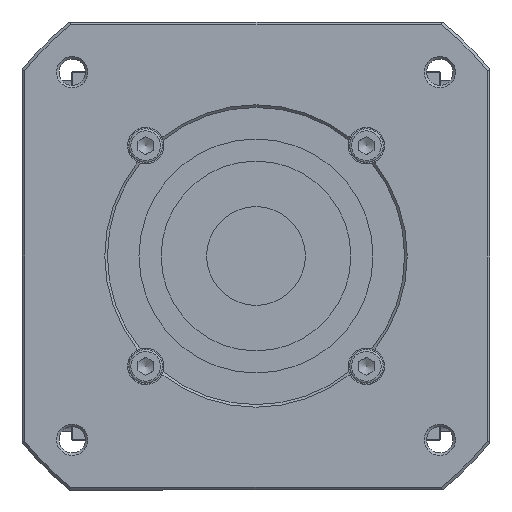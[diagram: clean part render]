
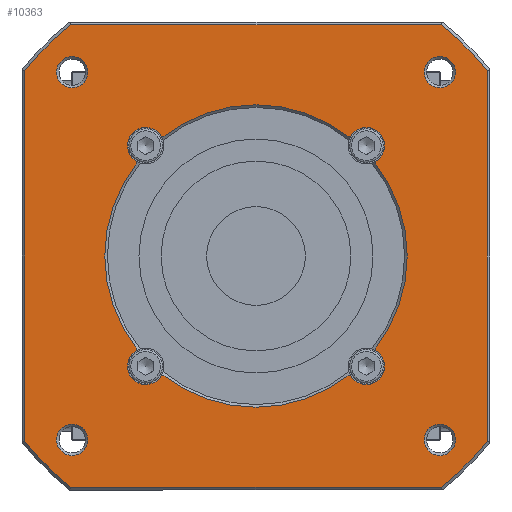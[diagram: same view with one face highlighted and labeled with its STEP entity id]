
A CAD part, front view. The second image highlights one B-rep face of the part: STEP entity #10363.
In plain terms, the highlighted planar face has unit normal (0, -1, 0).
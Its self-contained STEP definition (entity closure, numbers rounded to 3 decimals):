
#9364=CARTESIAN_POINT('',(-89.,-166.0,71.239));
#9365=VERTEX_POINT('',#9364);
#9366=CARTESIAN_POINT('',(-71.239,-166.0,89.));
#9367=VERTEX_POINT('',#9366);
#9368=CARTESIAN_POINT('',(0.,-166.0,0.));
#9369=DIRECTION('',(0.0,1.0,0.0));
#9370=DIRECTION('',(-1.0,0.0,0.0));
#9371=AXIS2_PLACEMENT_3D('',#9368,#9369,#9370);
#9372=CIRCLE('',#9371,114.0);
#9373=EDGE_CURVE('',#9365,#9367,#9372,.T.);
#9414=CARTESIAN_POINT('',(-89.,-166.0,-71.239));
#9415=VERTEX_POINT('',#9414);
#9423=CARTESIAN_POINT('',(-89.,-166.0,-71.239));
#9424=DIRECTION('',(0.0,0.0,1.0));
#9425=VECTOR('',#9424,142.478);
#9426=LINE('',#9423,#9425);
#9427=EDGE_CURVE('',#9415,#9365,#9426,.T.);
#9438=CARTESIAN_POINT('',(-71.239,-166.0,-89.));
#9439=VERTEX_POINT('',#9438);
#9440=CARTESIAN_POINT('',(0.,-166.0,0.));
#9441=DIRECTION('',(0.0,1.0,0.0));
#9442=DIRECTION('',(-1.0,0.0,0.0));
#9443=AXIS2_PLACEMENT_3D('',#9440,#9441,#9442);
#9444=CIRCLE('',#9443,114.0);
#9445=EDGE_CURVE('',#9439,#9415,#9444,.T.);
#9478=CARTESIAN_POINT('',(71.239,-166.0,-89.));
#9479=VERTEX_POINT('',#9478);
#9487=CARTESIAN_POINT('',(71.239,-166.0,-89.0));
#9488=DIRECTION('',(-1.0,0.0,0.0));
#9489=VECTOR('',#9488,142.478);
#9490=LINE('',#9487,#9489);
#9491=EDGE_CURVE('',#9479,#9439,#9490,.T.);
#9502=CARTESIAN_POINT('',(89.,-166.0,-71.239));
#9503=VERTEX_POINT('',#9502);
#9504=CARTESIAN_POINT('',(0.,-166.0,0.));
#9505=DIRECTION('',(0.0,1.0,0.0));
#9506=DIRECTION('',(1.0,0.0,0.0));
#9507=AXIS2_PLACEMENT_3D('',#9504,#9505,#9506);
#9508=CIRCLE('',#9507,114.0);
#9509=EDGE_CURVE('',#9503,#9479,#9508,.T.);
#9529=CARTESIAN_POINT('',(89.,-166.0,71.239));
#9530=VERTEX_POINT('',#9529);
#9538=CARTESIAN_POINT('',(89.,-166.0,71.239));
#9539=DIRECTION('',(0.0,0.0,-1.0));
#9540=VECTOR('',#9539,142.478);
#9541=LINE('',#9538,#9540);
#9542=EDGE_CURVE('',#9530,#9503,#9541,.T.);
#9553=CARTESIAN_POINT('',(71.239,-166.0,89.0));
#9554=VERTEX_POINT('',#9553);
#9555=CARTESIAN_POINT('',(0.,-166.0,0.));
#9556=DIRECTION('',(0.0,1.0,0.0));
#9557=DIRECTION('',(1.0,0.0,0.0));
#9558=AXIS2_PLACEMENT_3D('',#9555,#9556,#9557);
#9559=CIRCLE('',#9558,114.0);
#9560=EDGE_CURVE('',#9554,#9530,#9559,.T.);
#9581=CARTESIAN_POINT('',(-71.239,-166.0,89.));
#9582=DIRECTION('',(1.0,0.0,0.0));
#9583=VECTOR('',#9582,142.478);
#9584=LINE('',#9581,#9583);
#9585=EDGE_CURVE('',#9367,#9554,#9584,.T.);
#9596=CARTESIAN_POINT('',(-45.542,-166.0,36.158));
#9597=VERTEX_POINT('',#9596);
#9608=CARTESIAN_POINT('',(-36.158,-166.0,45.542));
#9609=VERTEX_POINT('',#9608);
#9617=CARTESIAN_POINT('',(-42.426,-166.0,42.426));
#9618=DIRECTION('',(0.0,1.0,0.0));
#9619=DIRECTION('',(-1.0,0.0,0.0));
#9620=AXIS2_PLACEMENT_3D('',#9617,#9618,#9619);
#9621=CIRCLE('',#9620,7.);
#9622=EDGE_CURVE('',#9597,#9609,#9621,.T.);
#9635=CARTESIAN_POINT('',(36.158,-166.0,45.542));
#9636=VERTEX_POINT('',#9635);
#9644=CARTESIAN_POINT('',(0.,-166.0,0.));
#9645=DIRECTION('',(0.0,-1.0,0.0));
#9646=DIRECTION('',(1.0,0.0,0.0));
#9647=AXIS2_PLACEMENT_3D('',#9644,#9645,#9646);
#9648=CIRCLE('',#9647,58.15);
#9649=EDGE_CURVE('',#9636,#9609,#9648,.T.);
#9664=CARTESIAN_POINT('',(45.542,-166.0,36.158));
#9665=VERTEX_POINT('',#9664);
#9673=CARTESIAN_POINT('',(42.426,-166.0,42.426));
#9674=DIRECTION('',(0.0,1.0,0.0));
#9675=DIRECTION('',(-1.0,0.0,0.0));
#9676=AXIS2_PLACEMENT_3D('',#9673,#9674,#9675);
#9677=CIRCLE('',#9676,7.);
#9678=EDGE_CURVE('',#9636,#9665,#9677,.T.);
#9692=CARTESIAN_POINT('',(45.542,-166.0,-36.158));
#9693=VERTEX_POINT('',#9692);
#9701=CARTESIAN_POINT('',(0.,-166.0,0.));
#9702=DIRECTION('',(0.0,-1.0,0.0));
#9703=DIRECTION('',(1.0,0.0,0.0));
#9704=AXIS2_PLACEMENT_3D('',#9701,#9702,#9703);
#9705=CIRCLE('',#9704,58.15);
#9706=EDGE_CURVE('',#9693,#9665,#9705,.T.);
#9721=CARTESIAN_POINT('',(36.158,-166.0,-45.542));
#9722=VERTEX_POINT('',#9721);
#9730=CARTESIAN_POINT('',(42.426,-166.0,-42.426));
#9731=DIRECTION('',(0.0,1.0,0.0));
#9732=DIRECTION('',(-1.0,0.0,0.0));
#9733=AXIS2_PLACEMENT_3D('',#9730,#9731,#9732);
#9734=CIRCLE('',#9733,7.);
#9735=EDGE_CURVE('',#9693,#9722,#9734,.T.);
#9749=CARTESIAN_POINT('',(-36.158,-166.0,-45.542));
#9750=VERTEX_POINT('',#9749);
#9758=CARTESIAN_POINT('',(0.,-166.0,0.));
#9759=DIRECTION('',(0.0,-1.0,0.0));
#9760=DIRECTION('',(1.0,0.0,0.0));
#9761=AXIS2_PLACEMENT_3D('',#9758,#9759,#9760);
#9762=CIRCLE('',#9761,58.15);
#9763=EDGE_CURVE('',#9750,#9722,#9762,.T.);
#9778=CARTESIAN_POINT('',(-45.542,-166.0,-36.158));
#9779=VERTEX_POINT('',#9778);
#9787=CARTESIAN_POINT('',(-42.426,-166.0,-42.426));
#9788=DIRECTION('',(0.0,1.0,0.0));
#9789=DIRECTION('',(-1.0,0.0,0.0));
#9790=AXIS2_PLACEMENT_3D('',#9787,#9788,#9789);
#9791=CIRCLE('',#9790,7.);
#9792=EDGE_CURVE('',#9750,#9779,#9791,.T.);
#9807=CARTESIAN_POINT('',(0.,-166.0,0.));
#9808=DIRECTION('',(0.0,-1.0,0.0));
#9809=DIRECTION('',(-1.0,0.0,0.0));
#9810=AXIS2_PLACEMENT_3D('',#9807,#9808,#9809);
#9811=CIRCLE('',#9810,58.15);
#9812=EDGE_CURVE('',#9597,#9779,#9811,.T.);
#10182=CARTESIAN_POINT('',(64.658,-166.0,-70.711));
#10183=VERTEX_POINT('',#10182);
#10184=CARTESIAN_POINT('',(70.711,-166.0,-70.711));
#10185=DIRECTION('',(0.0,-1.0,0.0));
#10186=DIRECTION('',(1.0,0.0,0.0));
#10187=AXIS2_PLACEMENT_3D('',#10184,#10185,#10186);
#10188=CIRCLE('',#10187,6.053);
#10189=EDGE_CURVE('',#10183,#10183,#10188,.T.);
#10230=CARTESIAN_POINT('',(-76.764,-166.0,-70.711));
#10231=VERTEX_POINT('',#10230);
#10232=CARTESIAN_POINT('',(-70.711,-166.0,-70.711));
#10233=DIRECTION('',(0.0,-1.0,0.0));
#10234=DIRECTION('',(1.0,0.0,0.0));
#10235=AXIS2_PLACEMENT_3D('',#10232,#10233,#10234);
#10236=CIRCLE('',#10235,6.053);
#10237=EDGE_CURVE('',#10231,#10231,#10236,.T.);
#10278=CARTESIAN_POINT('',(-76.764,-166.0,70.711));
#10279=VERTEX_POINT('',#10278);
#10280=CARTESIAN_POINT('',(-70.711,-166.0,70.711));
#10281=DIRECTION('',(0.0,-1.0,0.0));
#10282=DIRECTION('',(1.0,0.0,0.0));
#10283=AXIS2_PLACEMENT_3D('',#10280,#10281,#10282);
#10284=CIRCLE('',#10283,6.053);
#10285=EDGE_CURVE('',#10279,#10279,#10284,.T.);
#10318=CARTESIAN_POINT('',(0.,-166.0,0.));
#10319=DIRECTION('',(0.0,1.0,0.0));
#10320=DIRECTION('',(1.0,0.0,0.0));
#10321=AXIS2_PLACEMENT_3D('',#10318,#10319,#10320);
#10322=PLANE('',#10321);
#10323=ORIENTED_EDGE('',*,*,#9585,.F.);
#10324=ORIENTED_EDGE('',*,*,#9373,.F.);
#10325=ORIENTED_EDGE('',*,*,#9427,.F.);
#10326=ORIENTED_EDGE('',*,*,#9445,.F.);
#10327=ORIENTED_EDGE('',*,*,#9491,.F.);
#10328=ORIENTED_EDGE('',*,*,#9509,.F.);
#10329=ORIENTED_EDGE('',*,*,#9542,.F.);
#10330=ORIENTED_EDGE('',*,*,#9560,.F.);
#10331=EDGE_LOOP('',(#10323,#10324,#10325,#10326,#10327,#10328,#10329,#10330));
#10332=FACE_OUTER_BOUND('',#10331,.T.);
#10333=ORIENTED_EDGE('',*,*,#10285,.F.);
#10334=EDGE_LOOP('',(#10333));
#10335=FACE_BOUND('',#10334,.T.);
#10336=ORIENTED_EDGE('',*,*,#10189,.F.);
#10337=EDGE_LOOP('',(#10336));
#10338=FACE_BOUND('',#10337,.T.);
#10339=ORIENTED_EDGE('',*,*,#9812,.F.);
#10340=ORIENTED_EDGE('',*,*,#9622,.T.);
#10341=ORIENTED_EDGE('',*,*,#9649,.F.);
#10342=ORIENTED_EDGE('',*,*,#9678,.T.);
#10343=ORIENTED_EDGE('',*,*,#9706,.F.);
#10344=ORIENTED_EDGE('',*,*,#9735,.T.);
#10345=ORIENTED_EDGE('',*,*,#9763,.F.);
#10346=ORIENTED_EDGE('',*,*,#9792,.T.);
#10347=EDGE_LOOP('',(#10339,#10340,#10341,#10342,#10343,#10344,#10345,#10346));
#10348=FACE_BOUND('',#10347,.T.);
#10349=ORIENTED_EDGE('',*,*,#10237,.F.);
#10350=EDGE_LOOP('',(#10349));
#10351=FACE_BOUND('',#10350,.T.);
#10352=CARTESIAN_POINT('',(64.658,-166.0,70.711));
#10353=VERTEX_POINT('',#10352);
#10354=CARTESIAN_POINT('',(70.711,-166.0,70.711));
#10355=DIRECTION('',(0.0,-1.0,0.0));
#10356=DIRECTION('',(1.0,0.0,0.0));
#10357=AXIS2_PLACEMENT_3D('',#10354,#10355,#10356);
#10358=CIRCLE('',#10357,6.053);
#10359=EDGE_CURVE('',#10353,#10353,#10358,.T.);
#10360=ORIENTED_EDGE('',*,*,#10359,.F.);
#10361=EDGE_LOOP('',(#10360));
#10362=FACE_BOUND('',#10361,.T.);
#10363=ADVANCED_FACE('',(#10332,#10335,#10338,#10348,#10351,#10362),#10322,.F.);
